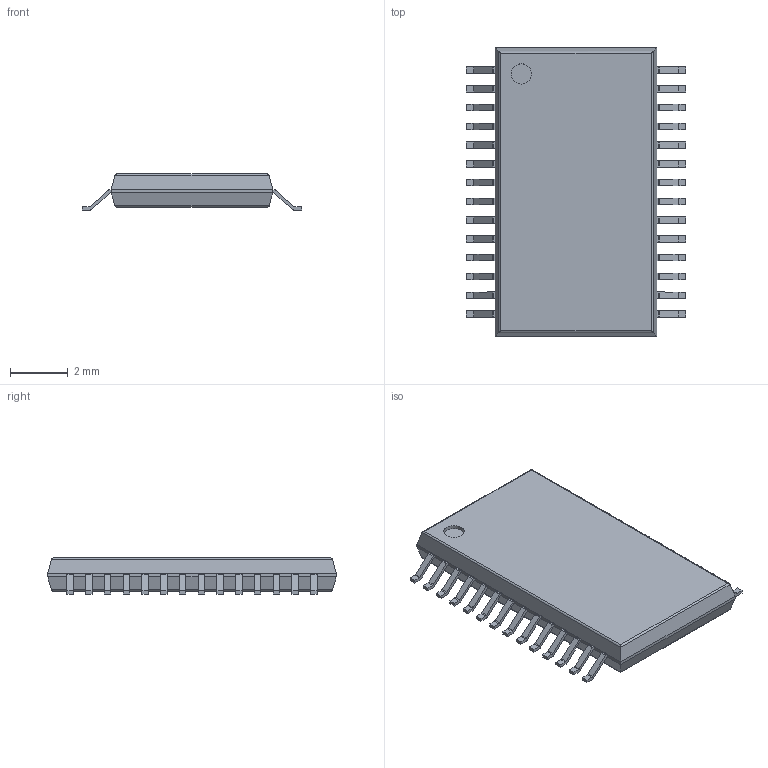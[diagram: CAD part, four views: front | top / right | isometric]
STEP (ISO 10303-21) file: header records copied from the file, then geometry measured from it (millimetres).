
FILE_DESCRIPTION(('FreeCAD Model'),'2;1');
FILE_NAME('/var/www/3D/0T/13368311.1.1.stp','2020-12-04T12:18:33',( 'Author'),(''),'Open CASCADE STEP processor 6.9','FreeCAD','Unknown' );
FILE_SCHEMA(('AUTOMOTIVE_DESIGN { 1 0 10303 214 1 1 1 1 }'));
Length unit declared in the file: millimetre
Products named in the file (3): ASSEMBLY; Body; PinsArrayLR
Assembly tree (2 placements, depth 2):
  ASSEMBLY
    Body
    PinsArrayLR
Bounding box: 7.6 x 10 x 1.25 mm (x, y, z)
Volume: 62.9 mm3; surface area: 163.2 mm2
Topology: 29 solids, 29 shells, 388 faces, 971 edges, 642 vertices
Faces by surface type: plane 295, cylinder 93
Full cylindrical faces by diameter (mm): 0.7 x1
Entity records: 24651 total; most frequent: CARTESIAN_POINT 4638, DIRECTION 3713, LINE 2489, VECTOR 2489, ORIENTED_EDGE 1942, PCURVE 1942, DEFINITIONAL_REPRESENTATION 1942, EDGE_CURVE 971
